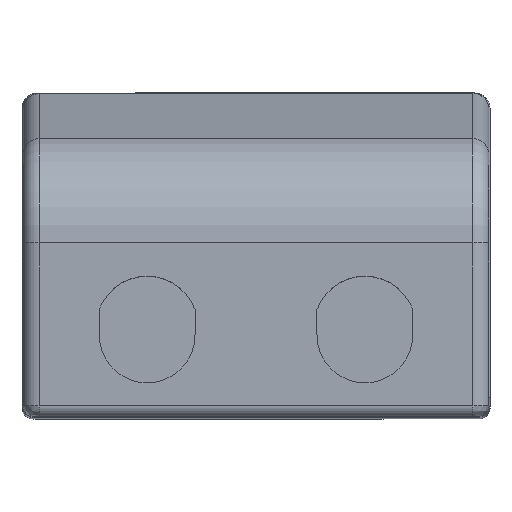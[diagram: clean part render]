
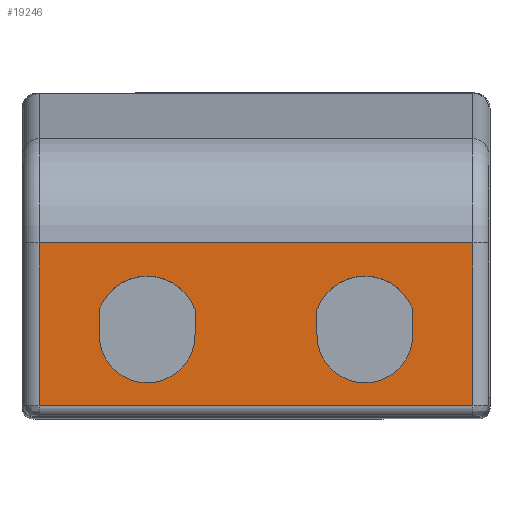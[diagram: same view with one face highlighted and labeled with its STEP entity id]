
A CAD part, top view. The second image highlights one B-rep face of the part: STEP entity #19246.
In plain terms, the highlighted planar face has unit normal (0, 0, 1).
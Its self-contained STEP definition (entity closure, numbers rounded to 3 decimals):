
#7813=DIRECTION('',(0.,1.,0.));
#7814=VECTOR('',#7813,14.957);
#7815=CARTESIAN_POINT('',(-3.617,2.048,25.291));
#7816=LINE('',#7815,#7814);
#7949=DIRECTION('',(-1.,0.,0.));
#7950=VECTOR('',#7949,39.8);
#7951=CARTESIAN_POINT('',(-3.617,17.006,25.291));
#7952=LINE('',#7951,#7950);
#7963=CARTESIAN_POINT('',(-13.517,9.248,25.291));
#7964=DIRECTION('',(0.,0.,1.));
#7965=DIRECTION('',(0.936,0.352,0.));
#7966=AXIS2_PLACEMENT_3D('',#7963,#7964,#7965);
#7971=DIRECTION('',(0.,-1.,0.));
#7972=VECTOR('',#7971,2.352);
#7973=CARTESIAN_POINT('',(-17.917,10.901,25.291));
#7974=LINE('',#7973,#7972);
#7978=CARTESIAN_POINT('',(-13.517,8.548,25.291));
#7979=DIRECTION('',(0.,0.,1.));
#7980=DIRECTION('',(-1.,0.,0.));
#7981=AXIS2_PLACEMENT_3D('',#7978,#7979,#7980);
#7986=DIRECTION('',(0.,1.,0.));
#7987=VECTOR('',#7986,2.352);
#7988=CARTESIAN_POINT('',(-9.117,8.548,25.291));
#7989=LINE('',#7988,#7987);
#7993=CARTESIAN_POINT('',(-33.517,9.248,25.291));
#7994=DIRECTION('',(0.,0.,1.));
#7995=DIRECTION('',(0.936,0.352,0.));
#7996=AXIS2_PLACEMENT_3D('',#7993,#7994,#7995);
#8001=DIRECTION('',(0.,-1.,0.));
#8002=VECTOR('',#8001,2.352);
#8003=CARTESIAN_POINT('',(-37.917,10.901,25.291));
#8004=LINE('',#8003,#8002);
#8008=CARTESIAN_POINT('',(-33.517,8.548,25.291));
#8009=DIRECTION('',(0.,0.,1.));
#8010=DIRECTION('',(-1.,0.,0.));
#8011=AXIS2_PLACEMENT_3D('',#8008,#8009,#8010);
#8016=DIRECTION('',(0.,1.,0.));
#8017=VECTOR('',#8016,2.352);
#8018=CARTESIAN_POINT('',(-29.117,8.548,25.291));
#8019=LINE('',#8018,#8017);
#8023=DIRECTION('',(1.,0.,0.));
#8024=VECTOR('',#8023,39.8);
#8025=CARTESIAN_POINT('',(-43.417,2.048,25.291));
#8026=LINE('',#8025,#8024);
#8068=DIRECTION('',(0.,-1.,0.));
#8069=VECTOR('',#8068,14.957);
#8070=CARTESIAN_POINT('',(-43.417,17.006,25.291));
#8071=LINE('',#8070,#8069);
#11774=CARTESIAN_POINT('',(-43.417,17.006,
25.291));
#11775=VERTEX_POINT('',#11774);
#11776=CARTESIAN_POINT('',(-3.617,17.006,
25.291));
#11777=VERTEX_POINT('',#11776);
#11778=CARTESIAN_POINT('',(-3.617,2.048,
25.291));
#11779=VERTEX_POINT('',#11778);
#11780=CARTESIAN_POINT('',(-43.417,2.048,
25.291));
#11781=VERTEX_POINT('',#11780);
#11782=CARTESIAN_POINT('',(-9.117,10.901,
25.291));
#11783=CARTESIAN_POINT('',(-17.917,10.901,
25.291));
#11784=VERTEX_POINT('',#11782);
#11785=VERTEX_POINT('',#11783);
#11786=CARTESIAN_POINT('',(-17.917,8.548,
25.291));
#11787=VERTEX_POINT('',#11786);
#11788=CARTESIAN_POINT('',(-9.117,8.548,
25.291));
#11789=VERTEX_POINT('',#11788);
#11790=CARTESIAN_POINT('',(-29.117,10.901,
25.291));
#11791=CARTESIAN_POINT('',(-37.917,10.901,
25.291));
#11792=VERTEX_POINT('',#11790);
#11793=VERTEX_POINT('',#11791);
#11794=CARTESIAN_POINT('',(-37.917,8.548,
25.291));
#11795=VERTEX_POINT('',#11794);
#11796=CARTESIAN_POINT('',(-29.117,8.548,
25.291));
#11797=VERTEX_POINT('',#11796);
#19213=CARTESIAN_POINT('',(-44.917,17.006,
25.291));
#19214=DIRECTION('',(0.,0.,1.));
#19215=DIRECTION('',(0.,-1.,0.));
#19216=AXIS2_PLACEMENT_3D('',#19213,#19214,#19215);
#19217=PLANE('',#19216);
#19219=ORIENTED_EDGE('',*,*,#19218,.F.);
#19221=ORIENTED_EDGE('',*,*,#19220,.F.);
#19222=ORIENTED_EDGE('',*,*,#19206,.F.);
#19223=ORIENTED_EDGE('',*,*,#19077,.F.);
#19224=EDGE_LOOP('',(#19219,#19221,#19222,#19223));
#19225=FACE_OUTER_BOUND('',#19224,.F.);
#19227=ORIENTED_EDGE('',*,*,#19226,.T.);
#19229=ORIENTED_EDGE('',*,*,#19228,.T.);
#19231=ORIENTED_EDGE('',*,*,#19230,.T.);
#19233=ORIENTED_EDGE('',*,*,#19232,.T.);
#19234=EDGE_LOOP('',(#19227,#19229,#19231,#19233));
#19235=FACE_BOUND('',#19234,.F.);
#19237=ORIENTED_EDGE('',*,*,#19236,.T.);
#19239=ORIENTED_EDGE('',*,*,#19238,.T.);
#19241=ORIENTED_EDGE('',*,*,#19240,.T.);
#19243=ORIENTED_EDGE('',*,*,#19242,.T.);
#19244=EDGE_LOOP('',(#19237,#19239,#19241,#19243));
#19245=FACE_BOUND('',#19244,.F.);
#7967=CIRCLE('',#7966,4.7);
#7982=CIRCLE('',#7981,4.4);
#7997=CIRCLE('',#7996,4.7);
#8012=CIRCLE('',#8011,4.4);
#19077=EDGE_CURVE('',#11779,#11777,#7816,.T.);
#19206=EDGE_CURVE('',#11777,#11775,#7952,.T.);
#19218=EDGE_CURVE('',#11781,#11779,#8026,.T.);
#19220=EDGE_CURVE('',#11775,#11781,#8071,.T.);
#19226=EDGE_CURVE('',#11784,#11785,#7967,.T.);
#19228=EDGE_CURVE('',#11785,#11787,#7974,.T.);
#19230=EDGE_CURVE('',#11787,#11789,#7982,.T.);
#19232=EDGE_CURVE('',#11789,#11784,#7989,.T.);
#19236=EDGE_CURVE('',#11792,#11793,#7997,.T.);
#19238=EDGE_CURVE('',#11793,#11795,#8004,.T.);
#19240=EDGE_CURVE('',#11795,#11797,#8012,.T.);
#19242=EDGE_CURVE('',#11797,#11792,#8019,.T.);
#19246=ADVANCED_FACE('',(#19225,#19235,#19245),#19217,.T.);
